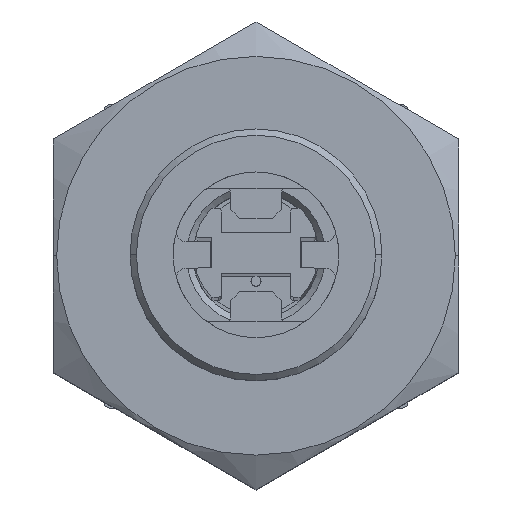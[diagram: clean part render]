
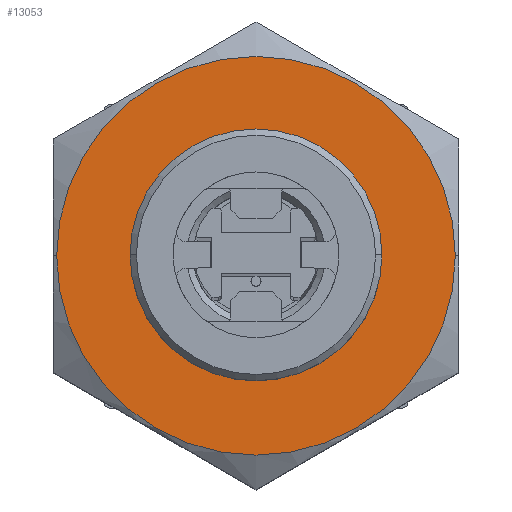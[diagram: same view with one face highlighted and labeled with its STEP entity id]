
A CAD part, top view. The second image highlights one B-rep face of the part: STEP entity #13053.
In plain terms, the highlighted planar face has unit normal (0, 0, 1) as drawn and (0, 0, -1) by its records, which use the part's own axes.
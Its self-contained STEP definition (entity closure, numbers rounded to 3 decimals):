
#828 = FACE_OUTER_BOUND ( 'NONE', #4729, .T. ) ;
#1185 = CARTESIAN_POINT ( 'NONE',  ( -8.775, 0., -28.6 ) ) ;
#1933 = EDGE_CURVE ( 'NONE', #10032, #13720, #5671, .T. ) ;
#2009 = AXIS2_PLACEMENT_3D ( 'NONE', #17508, #21192, #7919 ) ;
#2486 = ORIENTED_EDGE ( 'NONE', *, *, #1933, .T. ) ;
#2560 = CIRCLE ( 'NONE', #2009, 8.775 ) ;
#2756 = PLANE ( 'NONE',  #9283 ) ;
#2945 = FACE_BOUND ( 'NONE', #22305, .T. ) ;
#3599 = DIRECTION ( 'NONE',  ( -1., 0., 0. ) ) ;
#3939 = CARTESIAN_POINT ( 'NONE',  ( 0., 0., -28.6 ) ) ;
#4729 = EDGE_LOOP ( 'NONE', ( #12273, #16145 ) ) ;
#5671 = CIRCLE ( 'NONE', #10714, 8.775 ) ;
#7391 = CARTESIAN_POINT ( 'NONE',  ( -15.75, 0., -28.6 ) ) ;
#7420 = DIRECTION ( 'NONE',  ( 0., 0., 1. ) ) ;
#7919 = DIRECTION ( 'NONE',  ( -1., 0., 0. ) ) ;
#8342 = EDGE_CURVE ( 'NONE', #14190, #8883, #21817, .T. ) ;
#8775 = AXIS2_PLACEMENT_3D ( 'NONE', #21939, #17831, #23754 ) ;
#8883 = VERTEX_POINT ( 'NONE', #7391 ) ;
#9283 = AXIS2_PLACEMENT_3D ( 'NONE', #24028, #14374, #16317 ) ;
#10032 = VERTEX_POINT ( 'NONE', #24446 ) ;
#10714 = AXIS2_PLACEMENT_3D ( 'NONE', #3939, #7420, #3599 ) ;
#11419 = EDGE_CURVE ( 'NONE', #8883, #14190, #13256, .T. ) ;
#12273 = ORIENTED_EDGE ( 'NONE', *, *, #8342, .F. ) ;
#13053 = ADVANCED_FACE ( 'NONE', ( #2945, #828 ), #2756, .T. ) ;
#13126 = DIRECTION ( 'NONE',  ( 0., 0., 1. ) ) ;
#13256 = CIRCLE ( 'NONE', #8775, 15.75 ) ;
#13720 = VERTEX_POINT ( 'NONE', #1185 ) ;
#14026 = AXIS2_PLACEMENT_3D ( 'NONE', #18751, #13126, #18835 ) ;
#14190 = VERTEX_POINT ( 'NONE', #19802 ) ;
#14374 = DIRECTION ( 'NONE',  ( 0., 0., -1. ) ) ;
#16145 = ORIENTED_EDGE ( 'NONE', *, *, #11419, .F. ) ;
#16317 = DIRECTION ( 'NONE',  ( -1., 0., 0. ) ) ;
#17508 = CARTESIAN_POINT ( 'NONE',  ( 0., 0., -28.6 ) ) ;
#17831 = DIRECTION ( 'NONE',  ( 0., 0., 1. ) ) ;
#18751 = CARTESIAN_POINT ( 'NONE',  ( 0., 0., -28.6 ) ) ;
#18835 = DIRECTION ( 'NONE',  ( 1., 0., 0. ) ) ;
#19802 = CARTESIAN_POINT ( 'NONE',  ( 15.75, 0., -28.6 ) ) ;
#20998 = ORIENTED_EDGE ( 'NONE', *, *, #23246, .T. ) ;
#21192 = DIRECTION ( 'NONE',  ( 0., 0., 1. ) ) ;
#21817 = CIRCLE ( 'NONE', #14026, 15.75 ) ;
#21939 = CARTESIAN_POINT ( 'NONE',  ( 0., 0., -28.6 ) ) ;
#22305 = EDGE_LOOP ( 'NONE', ( #20998, #2486 ) ) ;
#23246 = EDGE_CURVE ( 'NONE', #13720, #10032, #2560, .T. ) ;
#23754 = DIRECTION ( 'NONE',  ( 1., 0., 0. ) ) ;
#24028 = CARTESIAN_POINT ( 'NONE',  ( 16., 27.713, -28.6 ) ) ;
#24446 = CARTESIAN_POINT ( 'NONE',  ( 8.775, 0., -28.6 ) ) ;
